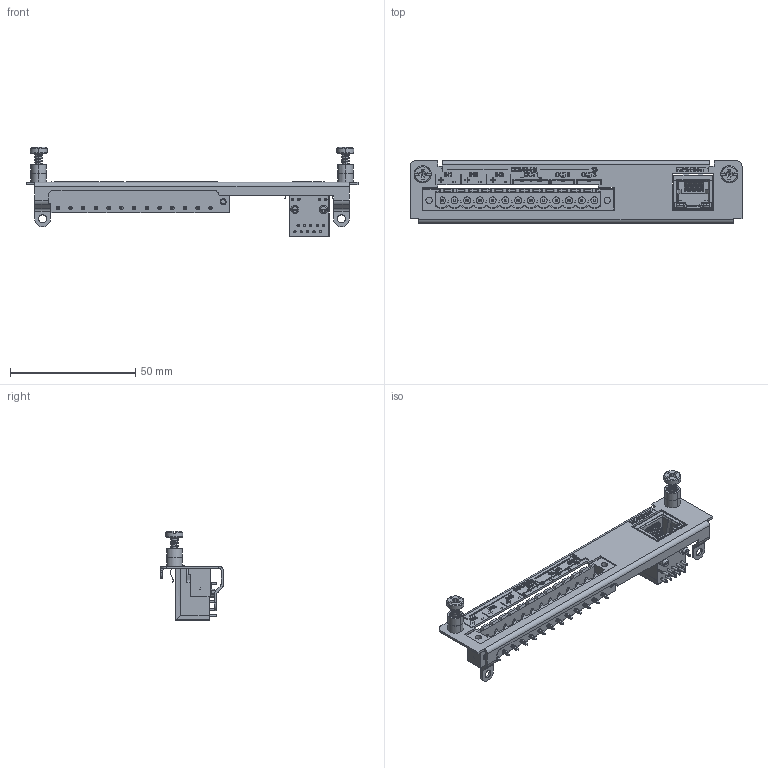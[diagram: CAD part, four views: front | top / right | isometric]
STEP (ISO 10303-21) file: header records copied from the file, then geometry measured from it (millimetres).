
FILE_DESCRIPTION(/* description */ (''),/* implementation_level */ '2;1');
FILE_NAME(/* name */ 'C:\Users\jondi\Desktop\FLEX 3D STP\E5.stp',/* time_stamp */ '2021-03-10T13:26:39-06:00',/* author */ ('jondi'),/* organization */ (''),/* preprocessor_version */ 'ST-DEVELOPER v17.2',/* originating_system */ 'Autodesk Inventor 2019',/* authorisation */ '');
FILE_SCHEMA (('AUTOMOTIVE_DESIGN { 1 0 10303 214 3 1 1 }'));
Products named in the file (9): E5; 9579230103; 9579200026; 9579200026_1; 44090; 9579200058; 43268 Copy; 1776618_05; mstb_2.5-13-gf-5.08
Assembly tree (9 placements, depth 4):
  E5
    9579230103
      9579200026
        9579200026_1
      44090  x2
    9579200058
    43268 Copy
    1776618_05
      mstb_2.5-13-gf-5.08
Bounding box: 132.59 x 25.02 x 35.63 mm (x, y, z)
Volume: 7432.9 mm3; surface area: 17700.1 mm2
Topology: 66 solids, 80 shells, 2408 faces, 5739 edges, 3614 vertices
Faces by surface type: plane 1878, bspline 244, cylinder 180, cone 71, torus 22, sphere 13
Full cylindrical faces by diameter (mm): 0.434 x1, 0.89 x10, 1.02 x4, 1.4 x13, 1.8 x2, 2.4 x2, 2.5 x2, 2.8 x12, 3.251 x2, 4.826 x2
Entity records: 74170 total; most frequent: CARTESIAN_POINT 19968, ORIENTED_EDGE 11011, DIRECTION 10023, EDGE_CURVE 5517, LINE 4213, VECTOR 4213, VERTEX_POINT 3488, AXIS2_PLACEMENT_3D 2905
